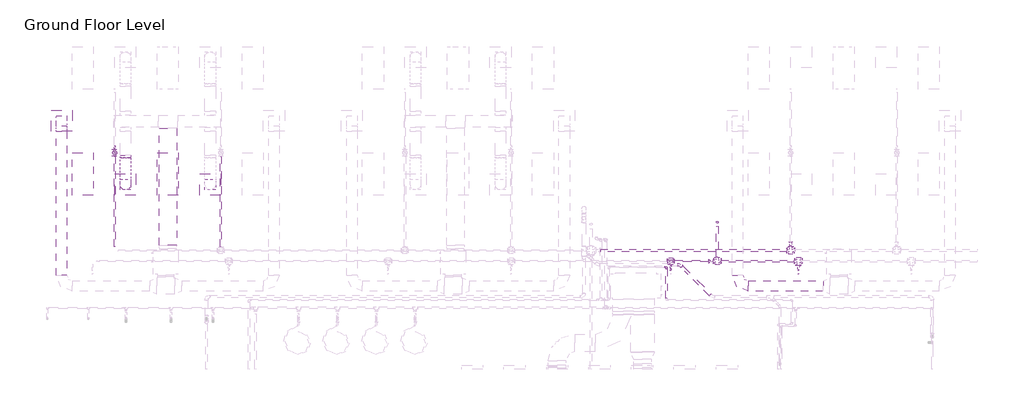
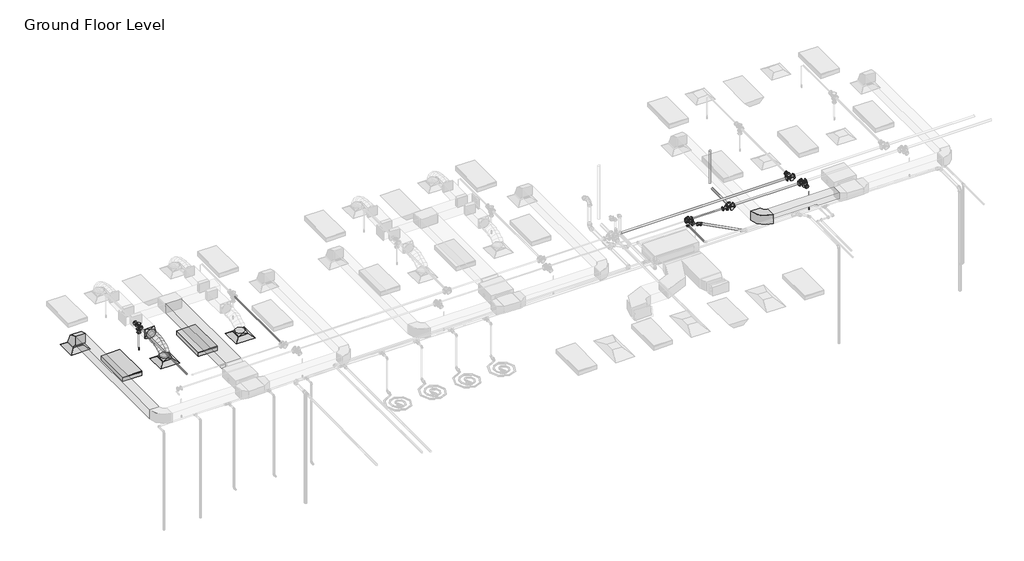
# One storey, part 52 of 68: 13 pipe fittings, 13 pipe segments, 5 duct fittings, 5 duct segments, 3 air terminals, 2 fire suppression terminals, 2 light fixtures.
"""IFC4 building model written with IfcOpenShell, lengths in millimetres."""

from ifc_helpers import new_model, si_unit, point, frame, frame_2d, origin, place, context, project, spatial, polyline, circle_curve, ellipse_curve, trimmed, segment, composite_curve, outline, extrude, transform, mapped, element, save
from ifc_brep_helpers import plane_surface, cylinder_surface, advanced_brep
from components import m_return_diffuser_600_x_600_face_300_x_300_connection_ff221211, m_rectangular_elbow_radius_1_w_618da153, m_rectangular_to_round_transition_angle_45_degree_641efff0, m_sprinkler_dry_pendent_hosted_15_mm_dry_pendent_9bda8e11, m_sprinkler_pendent_15_mm_pendent_06fcbd8e, m_troffer_light_parabolic_rectangular1_0600x1200mm_4_lamp_86473d4a, m_bend_pvc_sch_40_dwv_standard_9e3ead78, m_reducer_flanged_cs_class_150_standard_ccf252ad, m_reducer_flanged_cs_class_150_standard_d42b2106, m_reducer_flanged_cs_class_150_standard_a7631c35, m_reducer_flanged_cs_class_150_standard_55262df0, m_tee_round_base_flanged_cs_class_150_standard_dd767e04, m_tee_round_base_flanged_cs_class_150_standard_7e5987a1, standard_517a5a8d

model = new_model("IFC4")

# Units and contexts
model_context = context("Model", 3, world=origin())
ifc_project = project(units=[si_unit("LENGTHUNIT", "METRE", prefix="MILLI")], contexts=[model_context])

# Site, building, storey
site = spatial("IfcSite", under=ifc_project)
building = spatial("IfcBuilding", under=site)
storey = spatial("IfcBuildingStorey", under=building, Name="Ground Floor Level", Elevation=900.0)

# Air terminals
placement = place(None, origin())
m_return_diffuser_600_x_600_face_300_x_300_connection_shape = m_return_diffuser_600_x_600_face_300_x_300_connection_ff221211(model_context)
element("IfcAirTerminal", 1, ObjectType="M_Return Diffuser : 600 x 600 Face 300 x 300 Connection", at=placement, inside=storey, context=model_context, shape_type="MappedRepresentation", body=[
    mapped(m_return_diffuser_600_x_600_face_300_x_300_connection_shape, transform((-20937.2327605, 18735.2153534, 3650.0), x_axis=(1.0, 0.0, 0.0), y_axis=(0.0, 1.0, 0.0), z_axis=(0.0, 0.0, 1.0))),
])
element("IfcAirTerminal", 2, ObjectType="M_Supply Diffuser : 600 x 600 Face 300 x 300 Connection", at=placement, inside=storey, context=model_context, shape_type="MappedRepresentation", body=[
    mapped(m_return_diffuser_600_x_600_face_300_x_300_connection_shape, transform((-19137.2327605, 16935.2153534, 3650.0), x_axis=(1.0, 0.0, 0.0), y_axis=(0.0, 1.0, 0.0), z_axis=(0.0, 0.0, 1.0))),
])
element("IfcAirTerminal", 3, ObjectType="M_Supply Diffuser : 600 x 600 Face 300 x 300 Connection", at=placement, inside=storey, context=model_context, shape_type="MappedRepresentation", body=[
    mapped(m_return_diffuser_600_x_600_face_300_x_300_connection_shape, transform((-16737.2327605, 16935.2153534, 3650.0), x_axis=(1.0, 0.0, 0.0), y_axis=(0.0, 1.0, 0.0), z_axis=(0.0, 0.0, 1.0))),
])

# Duct fittings
m_rectangular_elbow_radius_1_w_shape = m_rectangular_elbow_radius_1_w_618da153(model_context)
element("IfcDuctFitting", 4, ObjectType="M_Rectangular Elbow - Radius : 1 W", at=placement, inside=storey, context=model_context, shape_type="MappedRepresentation", body=[
    mapped(m_rectangular_elbow_radius_1_w_shape, transform((-20937.2327605, 18735.2153534, 4075.2881511), x_axis=(0.0, 0.0, 1.0), y_axis=(0.0, -1.0, 0.0), z_axis=(1.0, 0.0, 0.0))),
])
element("IfcDuctFitting", 5, ObjectType="M_Rectangular Elbow - Radius : 1 W", at=placement, inside=storey, context=model_context, shape_type="MappedRepresentation", body=[
    mapped(m_rectangular_elbow_radius_1_w_shape, transform((-1837.2327605, 14069.8153534, 4075.2872564), x_axis=(0.0, -1.0, 0.0), y_axis=(1.0, 0.0, 0.0), z_axis=(0.0, 0.0, 1.0))),
])
m_rectangular_to_round_transition_angle_45_degree_shape = m_rectangular_to_round_transition_angle_45_degree_641efff0(model_context)
element("IfcDuctFitting", 6, ObjectType="M_Rectangular to Round Transition - Angle : 45 Degree", at=placement, inside=storey, context=model_context, shape_type="MappedRepresentation", body=[
    mapped(m_rectangular_to_round_transition_angle_45_degree_shape, transform((-16737.2327605, 16935.2153534, 3751.6), x_axis=(0.0, 0.0, 1.0), y_axis=(-1.0, 0.0, 0.0), z_axis=(0.0, -1.0, 0.0))),
])
element("IfcDuctFitting", 7, ObjectType="M_Rectangular to Round Transition - Angle : 45 Degree", at=placement, inside=storey, context=model_context, shape_type="MappedRepresentation", body=[
    mapped(m_rectangular_to_round_transition_angle_45_degree_shape, transform((-19137.2327605, 16935.2153534, 3751.6), x_axis=(0.0, 0.0, 1.0), y_axis=(-1.0, 0.0, 0.0), z_axis=(0.0, -1.0, 0.0))),
])
element("IfcDuctFitting", 8, ObjectType="M_Rectangular to Round Transition - Angle : 45 Degree", at=placement, inside=storey, context=model_context, shape_type="MappedRepresentation", body=[
    mapped(m_rectangular_to_round_transition_angle_45_degree_shape, transform((-19137.2327605, 17762.5518775, 4099.9994072), x_axis=(0.0, -1.0, 0.0), y_axis=(1.0, 0.0, 0.0), z_axis=(0.0, 0.0, 1.0))),
])

# Duct segments
element("IfcDuctSegment", 9, ObjectType="Flex - Round", at=placement, inside=storey, context=model_context, shape_type="AdvancedBrep", body=[
    advanced_brep(
    [(-18987.2327605, 16935.2153534, 3826.6), (-19137.2327605, 16785.2153534, 3826.6), (-19287.2327605, 16935.2153534, 3826.6), (-19137.2327605, 17085.2153534, 3826.6), (-18987.2327605, 16935.2153534, 3857.9377363), (-19137.2327605, 16785.2153534, 3883.580989), (-19287.2327605, 16935.2153534, 3857.9377363), (-19137.2327605, 17085.2153534, 3832.2944836), (-18987.2327605, 16952.2313024, 3906.2505836), (-19137.2327605, 16818.4933608, 3978.0661859), (-19287.2327605, 16952.2313024, 3906.2505836), (-19137.2327605, 17085.969244, 3834.4349814), (-18987.2327605, 16999.4152275, 3968.711286), (-19137.2327605, 16895.2094297, 4079.6206779), (-19287.2327605, 16999.4152275, 3968.711286), (-19137.2327605, 17103.6210253, 3857.8018941), (-18987.2327605, 17070.9712459, 4016.0699627), (-19137.2327605, 17002.0373501, 4150.3237308), (-19287.2327605, 17070.9712459, 4016.0699627), (-19137.2327605, 17139.9051416, 3881.8161947), (-18987.2327605, 17161.1034747, 4050.4144697), (-19137.2327605, 17117.5428863, 4194.3366298), (-19287.2327605, 17161.1034747, 4050.4144697), (-19137.2327605, 17204.6640631, 3906.4923095), (-18987.2327605, 17264.0160312, 4073.8326625), (-19137.2327605, 17237.4552729, 4221.6232067), (-19287.2327605, 17264.0160312, 4073.8326625), (-19137.2327605, 17290.5767896, 3926.0421182), (-18987.2327605, 17373.9130326, 4088.4123969), (-19137.2327605, 17358.7622742, 4237.7166746), (-19287.2327605, 17373.9130326, 4088.4123969), (-19137.2327605, 17389.0637909, 3939.1081192), (-18987.2327605, 17484.9985959, 4096.2415287), (-19137.2327605, 17477.4933798, 4246.0846519), (-19287.2327605, 17484.9985959, 4096.2415287), (-19137.2327605, 17492.5038121, 3946.3984054), (-18987.2327605, 17591.4768385, 4099.4079135), (-19137.2327605, 17588.7854112, 4249.3941863), (-19287.2327605, 17591.4768385, 4099.4079135), (-19137.2327605, 17594.1682658, 3949.4216408), (-18987.2327605, 17687.5518775, 4099.9994072), (-19137.2327605, 17688.475347, 3950.0022499), (-19287.2327605, 17687.5518775, 4099.9994072), (-19137.2327605, 17686.6284079, 4249.9965645)],
    [
        (0, 1, circle_curve(frame((-19137.2327605, 16935.2153534, 3826.6), z_axis=(0.0, 0.0, -1.0), x_axis=(1.0, 0.0, 0.0)), 150.0)),
        (1, 2, circle_curve(frame((-19137.2327605, 16935.2153534, 3826.6), z_axis=(0.0, 0.0, -1.0), x_axis=(1.0, 0.0, 0.0)), 150.0)),
        (2, 3, circle_curve(frame((-19137.2327605, 16935.2153534, 3826.6), z_axis=(0.0, 0.0, -1.0), x_axis=(1.0, 0.0, 0.0)), 150.0)),
        (3, 0, circle_curve(frame((-19137.2327605, 16935.2153534, 3826.6), z_axis=(0.0, 0.0, -1.0), x_axis=(1.0, 0.0, 0.0)), 150.0)),
        (0, 4),
        (4, 5, ellipse_curve(frame((-19137.2327605, 16935.2153534, 3857.9377363), z_axis=(0.0, -0.1685103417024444, -0.9856998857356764), x_axis=(0.0, 0.9856998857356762, -0.1685103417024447)), 152.1761361, 150.0)),
        (5, 1),
        (5, 6, ellipse_curve(frame((-19137.2327605, 16935.2153534, 3857.9377363), z_axis=(0.0, -0.1685103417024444, -0.9856998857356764), x_axis=(0.0, 0.9856998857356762, -0.1685103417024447)), 152.1761361, 150.0)),
        (6, 2),
        (6, 7, ellipse_curve(frame((-19137.2327605, 16935.2153534, 3857.9377363), z_axis=(0.0, -0.1685103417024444, -0.9856998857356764), x_axis=(0.0, 0.9856998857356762, -0.1685103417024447)), 152.1761361, 150.0)),
        (7, 3),
        (7, 4, ellipse_curve(frame((-19137.2327605, 16935.2153534, 3857.9377363), z_axis=(0.0, -0.1685103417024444, -0.9856998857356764), x_axis=(0.0, 0.9856998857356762, -0.1685103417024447)), 152.1761361, 150.0)),
        (4, 8),
        (8, 9, ellipse_curve(frame((-19137.2327605, 16952.2313024, 3906.2505836), z_axis=(0.0, -0.4730927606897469, -0.8810126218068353), x_axis=(0.0, 0.881012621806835, -0.4730927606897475)), 151.8002561, 150.0)),
        (9, 5),
        (9, 10, ellipse_curve(frame((-19137.2327605, 16952.2313024, 3906.2505836), z_axis=(0.0, -0.4730927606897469, -0.8810126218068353), x_axis=(0.0, 0.881012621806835, -0.4730927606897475)), 151.8002561, 150.0)),
        (10, 6),
        (10, 11, ellipse_curve(frame((-19137.2327605, 16952.2313024, 3906.2505836), z_axis=(0.0, -0.4730927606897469, -0.8810126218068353), x_axis=(0.0, 0.881012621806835, -0.4730927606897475)), 151.8002561, 150.0)),
        (11, 7),
        (11, 8, ellipse_curve(frame((-19137.2327605, 16952.2313024, 3906.2505836), z_axis=(0.0, -0.4730927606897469, -0.8810126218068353), x_axis=(0.0, 0.881012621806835, -0.4730927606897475)), 151.8002561, 150.0)),
        (8, 12),
        (12, 13, ellipse_curve(frame((-19137.2327605, 16999.4152275, 3968.711286), z_axis=(0.0, -0.7287884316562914, -0.6847389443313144), x_axis=(0.0, 0.6847389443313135, -0.7287884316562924)), 152.1832498, 150.0)),
        (13, 9),
        (13, 14, ellipse_curve(frame((-19137.2327605, 16999.4152275, 3968.711286), z_axis=(0.0, -0.7287884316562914, -0.6847389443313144), x_axis=(0.0, 0.6847389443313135, -0.7287884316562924)), 152.1832498, 150.0)),
        (14, 10),
        (14, 15, ellipse_curve(frame((-19137.2327605, 16999.4152275, 3968.711286), z_axis=(0.0, -0.7287884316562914, -0.6847389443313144), x_axis=(0.0, 0.6847389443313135, -0.7287884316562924)), 152.1832498, 150.0)),
        (15, 11),
        (15, 12, ellipse_curve(frame((-19137.2327605, 16999.4152275, 3968.711286), z_axis=(0.0, -0.7287884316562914, -0.6847389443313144), x_axis=(0.0, 0.6847389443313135, -0.7287884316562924)), 152.1832498, 150.0)),
        (12, 16),
        (16, 17, ellipse_curve(frame((-19137.2327605, 17070.9712459, 4016.0699627), z_axis=(0.0, -0.8895864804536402, -0.45676678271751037), x_axis=(0.0, 0.45676678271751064, -0.88958648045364)), 150.9170508, 150.0)),
        (17, 13),
        (17, 18, ellipse_curve(frame((-19137.2327605, 17070.9712459, 4016.0699627), z_axis=(0.0, -0.8895864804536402, -0.45676678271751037), x_axis=(0.0, 0.45676678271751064, -0.88958648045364)), 150.9170508, 150.0)),
        (18, 14),
        (18, 19, ellipse_curve(frame((-19137.2327605, 17070.9712459, 4016.0699627), z_axis=(0.0, -0.8895864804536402, -0.45676678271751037), x_axis=(0.0, 0.45676678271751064, -0.88958648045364)), 150.9170508, 150.0)),
        (19, 15),
        (19, 16, ellipse_curve(frame((-19137.2327605, 17070.9712459, 4016.0699627), z_axis=(0.0, -0.8895864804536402, -0.45676678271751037), x_axis=(0.0, 0.45676678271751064, -0.88958648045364)), 150.9170508, 150.0)),
        (16, 20),
        (20, 21, ellipse_curve(frame((-19137.2327605, 17161.1034747, 4050.4144697), z_axis=(0.0, -0.9571206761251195, -0.2896895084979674), x_axis=(0.0, 0.28968950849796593, -0.9571206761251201)), 150.3699207, 150.0)),
        (21, 17),
        (21, 22, ellipse_curve(frame((-19137.2327605, 17161.1034747, 4050.4144697), z_axis=(0.0, -0.9571206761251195, -0.2896895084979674), x_axis=(0.0, 0.28968950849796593, -0.9571206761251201)), 150.3699207, 150.0)),
        (22, 18),
        (22, 23, ellipse_curve(frame((-19137.2327605, 17161.1034747, 4050.4144697), z_axis=(0.0, -0.9571206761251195, -0.2896895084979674), x_axis=(0.0, 0.28968950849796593, -0.9571206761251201)), 150.3699207, 150.0)),
        (23, 19),
        (23, 20, ellipse_curve(frame((-19137.2327605, 17161.1034747, 4050.4144697), z_axis=(0.0, -0.9571206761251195, -0.2896895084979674), x_axis=(0.0, 0.28968950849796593, -0.9571206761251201)), 150.3699207, 150.0)),
        (20, 24),
        (24, 25, ellipse_curve(frame((-19137.2327605, 17264.0160312, 4073.8326625), z_axis=(0.0, -0.984231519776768, -0.17688503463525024), x_axis=(0.0, 0.17688503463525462, -0.984231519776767)), 150.1583126, 150.0)),
        (25, 21),
        (25, 26, ellipse_curve(frame((-19137.2327605, 17264.0160312, 4073.8326625), z_axis=(0.0, -0.984231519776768, -0.17688503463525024), x_axis=(0.0, 0.17688503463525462, -0.984231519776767)), 150.1583126, 150.0)),
        (26, 22),
        (26, 27, ellipse_curve(frame((-19137.2327605, 17264.0160312, 4073.8326625), z_axis=(0.0, -0.984231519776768, -0.17688503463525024), x_axis=(0.0, 0.17688503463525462, -0.984231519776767)), 150.1583126, 150.0)),
        (27, 23),
        (27, 24, ellipse_curve(frame((-19137.2327605, 17264.0160312, 4073.8326625), z_axis=(0.0, -0.984231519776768, -0.17688503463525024), x_axis=(0.0, 0.17688503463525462, -0.984231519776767)), 150.1583126, 150.0)),
        (24, 28),
        (28, 29, ellipse_curve(frame((-19137.2327605, 17373.9130326, 4088.4123969), z_axis=(0.0, -0.9948907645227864, -0.1009572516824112), x_axis=(0.0, 0.10095725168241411, -0.9948907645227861)), 150.0710259, 150.0)),
        (29, 25),
        (29, 30, ellipse_curve(frame((-19137.2327605, 17373.9130326, 4088.4123969), z_axis=(0.0, -0.9948907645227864, -0.1009572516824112), x_axis=(0.0, 0.10095725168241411, -0.9948907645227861)), 150.0710259, 150.0)),
        (30, 26),
        (30, 31, ellipse_curve(frame((-19137.2327605, 17373.9130326, 4088.4123969), z_axis=(0.0, -0.9948907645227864, -0.1009572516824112), x_axis=(0.0, 0.10095725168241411, -0.9948907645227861)), 150.0710259, 150.0)),
        (31, 27),
        (31, 28, ellipse_curve(frame((-19137.2327605, 17373.9130326, 4088.4123969), z_axis=(0.0, -0.9948907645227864, -0.1009572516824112), x_axis=(0.0, 0.10095725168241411, -0.9948907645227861)), 150.0710259, 150.0)),
        (28, 32),
        (32, 33, ellipse_curve(frame((-19137.2327605, 17484.9985959, 4096.2415287), z_axis=(0.0, -0.9987479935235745, -0.05002444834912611), x_axis=(0.0, 0.050024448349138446, -0.9987479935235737)), 150.030963, 150.0)),
        (33, 29),
        (33, 34, ellipse_curve(frame((-19137.2327605, 17484.9985959, 4096.2415287), z_axis=(0.0, -0.9987479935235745, -0.05002444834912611), x_axis=(0.0, 0.050024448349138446, -0.9987479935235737)), 150.030963, 150.0)),
        (34, 30),
        (34, 35, ellipse_curve(frame((-19137.2327605, 17484.9985959, 4096.2415287), z_axis=(0.0, -0.9987479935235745, -0.05002444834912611), x_axis=(0.0, 0.050024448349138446, -0.9987479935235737)), 150.030963, 150.0)),
        (35, 31),
        (35, 32, ellipse_curve(frame((-19137.2327605, 17484.9985959, 4096.2415287), z_axis=(0.0, -0.9987479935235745, -0.05002444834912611), x_axis=(0.0, 0.050024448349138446, -0.9987479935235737)), 150.030963, 150.0)),
        (32, 36),
        (36, 37, ellipse_curve(frame((-19137.2327605, 17591.4768385, 4099.4079135), z_axis=(0.0, -0.9998390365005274, -0.017941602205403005), x_axis=(0.0, 0.017941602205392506, -0.9998390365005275)), 150.0104189, 150.0)),
        (37, 33),
        (37, 38, ellipse_curve(frame((-19137.2327605, 17591.4768385, 4099.4079135), z_axis=(0.0, -0.9998390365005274, -0.017941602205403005), x_axis=(0.0, 0.017941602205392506, -0.9998390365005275)), 150.0104189, 150.0)),
        (38, 34),
        (38, 39, ellipse_curve(frame((-19137.2327605, 17591.4768385, 4099.4079135), z_axis=(0.0, -0.9998390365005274, -0.017941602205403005), x_axis=(0.0, 0.017941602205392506, -0.9998390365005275)), 150.0104189, 150.0)),
        (39, 35),
        (39, 36, ellipse_curve(frame((-19137.2327605, 17591.4768385, 4099.4079135), z_axis=(0.0, -0.9998390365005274, -0.017941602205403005), x_axis=(0.0, 0.017941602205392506, -0.9998390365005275)), 150.0104189, 150.0)),
        (40, 41, circle_curve(frame((-19137.2327605, 17687.5518775, 4099.9994072), z_axis=(0.0, 0.9999810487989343, 0.006156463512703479), x_axis=(1.0, 0.0, 0.0)), 150.0)),
        (41, 42, circle_curve(frame((-19137.2327605, 17687.5518775, 4099.9994072), z_axis=(0.0, 0.9999810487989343, 0.006156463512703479), x_axis=(1.0, 0.0, 0.0)), 150.0)),
        (42, 43, circle_curve(frame((-19137.2327605, 17687.5518775, 4099.9994072), z_axis=(0.0, 0.9999810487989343, 0.006156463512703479), x_axis=(1.0, 0.0, 0.0)), 150.0)),
        (43, 40, circle_curve(frame((-19137.2327605, 17687.5518775, 4099.9994072), z_axis=(0.0, 0.9999810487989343, 0.006156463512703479), x_axis=(1.0, 0.0, 0.0)), 150.0)),
        (36, 40),
        (43, 37),
        (42, 38),
        (41, 39),
    ],
    [
        plane_surface(frame((-19137.2327605, 16785.2153534, 3826.6), z_axis=(0.0, 0.0, -1.0), x_axis=(1.0, 0.0, 0.0))),
        cylinder_surface(frame((-19137.2327605, 16935.2153534, 3826.6), z_axis=(0.0, 0.0, -1.0), x_axis=(1.0, 0.0, 0.0)), 150.0),
        cylinder_surface(frame((-19137.2327605, 16935.2153534, 3857.9377363), z_axis=(0.0, -0.33220124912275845, -0.9432085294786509), x_axis=(1.0, 0.0, 0.0)), 150.0),
        cylinder_surface(frame((-19137.2327605, 16952.2313024, 3906.2505836), z_axis=(0.0, -0.6027631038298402, -0.7979201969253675), x_axis=(1.0, 0.0, 0.0)), 150.0),
        cylinder_surface(frame((-19137.2327605, 16999.4152275, 3968.711286), z_axis=(0.0, -0.833903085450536, -0.5519109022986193), x_axis=(1.0, 0.0, 0.0)), 150.0),
        cylinder_surface(frame((-19137.2327605, 17070.9712459, 4016.0699627), z_axis=(0.0, -0.9344586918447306, -0.3560715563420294), x_axis=(1.0, 0.0, 0.0)), 150.0),
        cylinder_surface(frame((-19137.2327605, 17161.1034747, 4050.4144697), z_axis=(0.0, -0.9750734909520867, -0.22188214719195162), x_axis=(1.0, 0.0, 0.0)), 150.0),
        cylinder_surface(frame((-19137.2327605, 17264.0160312, 4073.8326625), z_axis=(0.0, -0.9913141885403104, -0.13151494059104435), x_axis=(1.0, 0.0, 0.0)), 150.0),
        cylinder_surface(frame((-19137.2327605, 17373.9130326, 4088.4123969), z_axis=(0.0, -0.9975256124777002, -0.07030400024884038), x_axis=(1.0, 0.0, 0.0)), 150.0),
        cylinder_surface(frame((-19137.2327605, 17484.9985959, 4096.2415287), z_axis=(0.0, -0.9995581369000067, -0.029724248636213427), x_axis=(1.0, 0.0, 0.0)), 150.0),
        plane_surface(frame((-19137.2327605, 17686.6284079, 4249.9965645), z_axis=(0.0, 0.9999810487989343, 0.006156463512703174), x_axis=(1.0, 0.0, 0.0))),
        cylinder_surface(frame((-19137.2327605, 17591.4768385, 4099.4079135), z_axis=(0.0, -0.9999810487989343, -0.006156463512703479), x_axis=(1.0, 0.0, 0.0)), 150.0),
    ],
    [
        (0, [[1, 2, 3, 4]]),
        (1, [[-1, 5, 6, 7]]),
        (1, [[-2, -7, 8, 9]]),
        (1, [[-3, -9, 10, 11]]),
        (1, [[-4, -11, 12, -5]]),
        (2, [[-6, 13, 14, 15]]),
        (2, [[-8, -15, 16, 17]]),
        (2, [[-10, -17, 18, 19]]),
        (2, [[-12, -19, 20, -13]]),
        (3, [[-14, 21, 22, 23]]),
        (3, [[-16, -23, 24, 25]]),
        (3, [[-18, -25, 26, 27]]),
        (3, [[-20, -27, 28, -21]]),
        (4, [[-22, 29, 30, 31]]),
        (4, [[-24, -31, 32, 33]]),
        (4, [[-26, -33, 34, 35]]),
        (4, [[-28, -35, 36, -29]]),
        (5, [[-30, 37, 38, 39]]),
        (5, [[-32, -39, 40, 41]]),
        (5, [[-34, -41, 42, 43]]),
        (5, [[-36, -43, 44, -37]]),
        (6, [[-38, 45, 46, 47]]),
        (6, [[-40, -47, 48, 49]]),
        (6, [[-42, -49, 50, 51]]),
        (6, [[-44, -51, 52, -45]]),
        (7, [[-46, 53, 54, 55]]),
        (7, [[-48, -55, 56, 57]]),
        (7, [[-50, -57, 58, 59]]),
        (7, [[-52, -59, 60, -53]]),
        (8, [[-54, 61, 62, 63]]),
        (8, [[-56, -63, 64, 65]]),
        (8, [[-58, -65, 66, 67]]),
        (8, [[-60, -67, 68, -61]]),
        (9, [[-62, 69, 70, 71]]),
        (9, [[-64, -71, 72, 73]]),
        (9, [[-66, -73, 74, 75]]),
        (9, [[-68, -75, 76, -69]]),
        (10, [[77, 78, 79, 80]]),
        (11, [[-70, 81, -80, 82]]),
        (11, [[-72, -82, -79, 83]]),
        (11, [[-74, -83, -78, 84]]),
        (11, [[-76, -84, -77, -81]]),
    ],
),
])
element("IfcDuctSegment", 10, ObjectType="Radius Elbows / Taps", at=placement, inside=storey, context=model_context, shape_type="SweptSolid", body=[
    extrude(outline(polyline([(-17683.7327605, 15224.0945822), (-18183.7327605, 15224.0945822), (-18183.7327605, 18524.6783949), (-17683.7327605, 18524.6783949), (-17683.7327605, 15224.0945822)])), frame((0.0, 0.0, 3950.0008948), z_axis=(0.0, 0.0, 1.0), x_axis=(1.0, 0.0, 0.0)), (0.0, 0.0, 1.0), 300.0),
])
element("IfcDuctSegment", 11, ObjectType="Radius Elbows / Taps", at=placement, inside=storey, context=model_context, shape_type="SweptSolid", body=[
    extrude(outline(polyline([(-20787.2327605, 14369.8153534), (-21087.2327605, 14369.8153534), (-21087.2327605, 18435.2153534), (-20787.2327605, 18435.2153534), (-20787.2327605, 14369.8153534)])), frame((0.0, 0.0, 3925.2881511), z_axis=(0.0, 0.0, 1.0), x_axis=(1.0, 0.0, 0.0)), (0.0, 0.0, 1.0), 300.0),
])
element("IfcDuctSegment", 12, ObjectType="Radius Elbows / Taps", at=placement, inside=storey, context=model_context, shape_type="SweptSolid", body=[
    extrude(outline(polyline([(-20787.2327605, 18585.2153534), (-21087.2327605, 18585.2153534), (-21087.2327605, 18885.2153534), (-20787.2327605, 18885.2153534), (-20787.2327605, 18585.2153534)])), frame((0.0, 0.0, 3751.6), z_axis=(0.0, 0.0, 1.0), x_axis=(1.0, 0.0, 0.0)), (0.0, 0.0, 1.0), 23.6881511),
])
element("IfcDuctSegment", 13, ObjectType="Radius Elbows / Taps", at=placement, inside=storey, context=model_context, shape_type="SweptSolid", body=[
    extrude(outline(polyline([(-1537.2327605, 13919.8153534), (-1537.2327605, 14219.8153534), (576.4293293, 14219.8153534), (576.4293293, 13919.8153534), (-1537.2327605, 13919.8153534)])), frame((0.0, 0.0, 3925.2872564), z_axis=(0.0, 0.0, 1.0), x_axis=(1.0, 0.0, 0.0)), (0.0, 0.0, 1.0), 300.0),
])

# Fire suppression terminals
m_sprinkler_dry_pendent_hosted_15_mm_dry_pendent_shape = m_sprinkler_dry_pendent_hosted_15_mm_dry_pendent_9bda8e11(model_context)
element("IfcFireSuppressionTerminal", 14, ObjectType="M_Sprinkler - Dry - Pendent - Hosted : 15 mm Dry Pendent", at=placement, inside=storey, context=model_context, shape_type="MappedRepresentation", body=[
    mapped(m_sprinkler_dry_pendent_hosted_15_mm_dry_pendent_shape, transform((-19437.2327605, 17835.2153534, 3650.0), x_axis=(1.0, 0.0, 0.0), y_axis=(0.0, -1.0, 0.0), z_axis=(0.0, 0.0, -1.0))),
])
m_sprinkler_pendent_15_mm_pendent_shape = m_sprinkler_pendent_15_mm_pendent_06fcbd8e(model_context)
element("IfcFireSuppressionTerminal", 15, ObjectType="M_Sprinkler - Pendent : 15 mm Pendent", at=placement, inside=storey, context=model_context, shape_type="MappedRepresentation", body=[
    mapped(m_sprinkler_pendent_15_mm_pendent_shape, transform((-118.3252882, 14412.7243649, 3650.0), x_axis=(1.0, 0.0, 0.0), y_axis=(0.0, 1.0, 0.0), z_axis=(0.0, 0.0, 1.0))),
])

# Light fixtures
m_troffer_light_parabolic_rectangular1_0600x1200mm_4_lamp_shape = m_troffer_light_parabolic_rectangular1_0600x1200mm_4_lamp_86473d4a(model_context)
element("IfcLightFixture", 16, ObjectType="M_Troffer Light - Parabolic Rectangular1 : 0600x1200mm(4 Lamp) - 277V 2", at=placement, inside=storey, context=model_context, shape_type="MappedRepresentation", body=[
    mapped(m_troffer_light_parabolic_rectangular1_0600x1200mm_4_lamp_shape, transform((-20396.6986926, 17253.918855, 3650.0), x_axis=(0.0, 1.0, 0.0), y_axis=(-1.0, 0.0, 0.0), z_axis=(0.0, 0.0, 1.0))),
])
element("IfcLightFixture", 17, ObjectType="M_Troffer Light - Parabolic Rectangular1 : 0600x1200mm(4 Lamp) - 277V 2", at=placement, inside=storey, context=model_context, shape_type="MappedRepresentation", body=[
    mapped(m_troffer_light_parabolic_rectangular1_0600x1200mm_4_lamp_shape, transform((-17996.6986926, 17253.918855, 3650.0), x_axis=(0.0, 1.0, 0.0), y_axis=(-1.0, 0.0, 0.0), z_axis=(0.0, 0.0, 1.0))),
])

# Pipe fittings
m_bend_pvc_sch_40_dwv_standard_shape = m_bend_pvc_sch_40_dwv_standard_9e3ead78(model_context)
element("IfcPipeFitting", 18, ObjectType="M_Bend - PVC - Sch 40 - DWV : Standard", at=placement, inside=storey, context=model_context, shape_type="MappedRepresentation", body=[
    mapped(m_bend_pvc_sch_40_dwv_standard_shape, transform((-3461.339311, 14668.7334723, 4139.7239678), x_axis=(-0.707093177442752, 0.7070575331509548, 0.009427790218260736), y_axis=(-0.7070496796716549, -0.7071481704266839, 0.004713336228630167), z_axis=(0.009999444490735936, -0.003333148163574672, 0.9999444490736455))),
])
m_reducer_flanged_cs_class_150_standard_shape = m_reducer_flanged_cs_class_150_standard_ccf252ad(model_context)
element("IfcPipeFitting", 19, ObjectType="M_Reducer - Flanged - CS - Class 150 : Standard", at=placement, inside=storey, context=model_context, shape_type="MappedRepresentation", body=[
    mapped(m_reducer_flanged_cs_class_150_standard_shape, transform((-3723.9852405, 14672.759591, 4291.0943441), x_axis=(0.0, -1.0, 0.0), y_axis=(1.0, 0.0, 0.0), z_axis=(0.0, 0.0, 1.0))),
])
m_reducer_flanged_cs_class_150_standard_2_shape = m_reducer_flanged_cs_class_150_standard_d42b2106(model_context)
element("IfcPipeFitting", 20, ObjectType="M_Reducer - Flanged - CS - Class 150 : Standard", at=placement, inside=storey, context=model_context, shape_type="MappedRepresentation", body=[
    mapped(m_reducer_flanged_cs_class_150_standard_2_shape, transform((-19437.2327605, 17835.2153534, 4259.2914063), x_axis=(0.0, 0.0, -1.0), y_axis=(-1.0, 0.0, 0.0), z_axis=(0.0, 1.0, 0.0))),
])
element("IfcPipeFitting", 21, ObjectType="M_Reducer - Flanged - CS - Class 150 : Standard", at=placement, inside=storey, context=model_context, shape_type="MappedRepresentation", body=[
    mapped(m_reducer_flanged_cs_class_150_standard_2_shape, transform((-19437.2327605, 17935.9239471, 4360.0), x_axis=(0.0, 1.0, 0.0), y_axis=(-1.0, 0.0, 0.0), z_axis=(0.0, 0.0, 1.0))),
])
m_reducer_flanged_cs_class_150_standard_3_shape = m_reducer_flanged_cs_class_150_standard_a7631c35(model_context)
element("IfcPipeFitting", 22, ObjectType="M_Reducer - Flanged - CS - Class 150 : Standard", at=placement, inside=storey, context=model_context, shape_type="MappedRepresentation", body=[
    mapped(m_reducer_flanged_cs_class_150_standard_3_shape, transform((-2527.9259545, 14773.4681847, 4291.0943441), x_axis=(-1.0, 0.0, 0.0), y_axis=(0.0, -1.0, 0.0), z_axis=(0.0, 0.0, 1.0))),
])
element("IfcPipeFitting", 23, ObjectType="M_Reducer - Flanged - CS - Class 150 : Standard", at=placement, inside=storey, context=model_context, shape_type="MappedRepresentation", body=[
    mapped(m_reducer_flanged_cs_class_150_standard_3_shape, transform((-337.2327605, 15187.2009828, 4360.0), x_axis=(0.0, 1.0, 0.0), y_axis=(-1.0, 0.0, 0.0), z_axis=(0.0, 0.0, 1.0))),
])
m_reducer_flanged_cs_class_150_standard_4_shape = m_reducer_flanged_cs_class_150_standard_55262df0(model_context)
element("IfcPipeFitting", 24, ObjectType="M_Reducer - Flanged - CS - Class 150 : Standard", at=placement, inside=storey, context=model_context, shape_type="MappedRepresentation", body=[
    mapped(m_reducer_flanged_cs_class_150_standard_4_shape, transform((-118.3252882, 14659.4681847, 4291.0943441), x_axis=(0.0, -1.0, 0.0), y_axis=(1.0, 0.0, 0.0), z_axis=(0.0, 0.0, 1.0))),
])
m_tee_round_base_flanged_cs_class_150_standard_shape = m_tee_round_base_flanged_cs_class_150_standard_dd767e04(model_context)
element("IfcPipeFitting", 25, ObjectType="M_Tee Round Base - Flanged - CS - Class 150 : Standard", at=placement, inside=storey, context=model_context, shape_type="MappedRepresentation", body=[
    mapped(m_tee_round_base_flanged_cs_class_150_standard_shape, transform((-118.3252882, 14773.4681847, 4291.0943441), x_axis=(-1.0, 0.0, 0.0), y_axis=(0.0, 1.0, 0.0), z_axis=(0.0, 0.0, -1.0))),
])
element("IfcPipeFitting", 26, ObjectType="M_Tee Round Base - Flanged - CS - Class 150 : Standard", at=placement, inside=storey, context=model_context, shape_type="MappedRepresentation", body=[
    mapped(m_tee_round_base_flanged_cs_class_150_standard_shape, transform((-2413.9259545, 14773.4681847, 4291.0943441), x_axis=(-1.0, 0.0, 0.0), y_axis=(0.0, -1.0, 0.0), z_axis=(0.0, 0.0, 1.0))),
])
element("IfcPipeFitting", 27, ObjectType="M_Tee Round Base - Flanged - CS - Class 150 : Standard", at=placement, inside=storey, context=model_context, shape_type="MappedRepresentation", body=[
    mapped(m_tee_round_base_flanged_cs_class_150_standard_shape, transform((-337.2327605, 15073.2009828, 4360.0), x_axis=(-1.0, 0.0, 0.0), y_axis=(0.0, -1.0, 0.0), z_axis=(0.0, 0.0, 1.0))),
])
m_tee_round_base_flanged_cs_class_150_standard_2_shape = m_tee_round_base_flanged_cs_class_150_standard_7e5987a1(model_context)
element("IfcPipeFitting", 28, ObjectType="M_Tee Round Base - Flanged - CS - Class 150 : Standard", at=placement, inside=storey, context=model_context, shape_type="MappedRepresentation", body=[
    mapped(m_tee_round_base_flanged_cs_class_150_standard_2_shape, transform((-3723.9852405, 14773.4681847, 4291.0943441), x_axis=(-1.0, 0.0, 0.0), y_axis=(0.0, 1.0, 0.0), z_axis=(0.0, 0.0, -1.0))),
])
element("IfcPipeFitting", 29, ObjectType="M_Tee Round Base - Flanged - CS - Class 150 : Standard", at=placement, inside=storey, context=model_context, shape_type="MappedRepresentation", body=[
    mapped(m_tee_round_base_flanged_cs_class_150_standard_2_shape, transform((-19437.2327605, 17835.2153534, 4360.0), x_axis=(0.0, 1.0, 0.0), y_axis=(0.0, 0.0, 1.0), z_axis=(1.0, 0.0, 0.0))),
])
standard_shape = standard_517a5a8d(model_context)
element("IfcPipeFitting", 30, ObjectType="M_Elbow - CPVC - Sch 40 : Standard", at=placement, inside=storey, context=model_context, shape_type="MappedRepresentation", body=[
    mapped(standard_shape, transform((-3846.4489567, 14603.43487, 4250.0), x_axis=(0.0, 1.0, 0.0), y_axis=(-1.0, 0.0, 0.0), z_axis=(0.0, 0.0, 1.0))),
])

# Pipe segments
element("IfcPipeSegment", 31, ObjectType="CPVC", at=placement, inside=storey, context=model_context, shape_type="SweptSolid", body=[
    extrude(outline(composite_curve([segment(trimmed(circle_curve(frame_2d((4250.0, -3846.4489567)), 16.7005), [point((4250.0, -3863.1494567))], [point((4233.2995, -3846.4489567))], False, "CARTESIAN"), True, "CONTINUOUS"), segment(trimmed(circle_curve(frame_2d((4250.0, -3846.4489567)), 16.7005), [point((4233.2995, -3846.4489567))], [point((4250.0, -3829.7484567))], False, "CARTESIAN"), True, "CONTINUOUS"), segment(trimmed(circle_curve(frame_2d((4250.0, -3846.4489567)), 16.7005), [point((4250.0, -3829.7484567))], [point((4266.7005, -3846.4489567))], False, "CARTESIAN"), True, "CONTINUOUS"), segment(trimmed(circle_curve(frame_2d((4250.0, -3846.4489567)), 16.7005), [point((4266.7005, -3846.4489567))], [point((4250.0, -3863.1494567))], False, "CARTESIAN"), True, "CONTINUOUS")], self_intersect=False)), frame((0.0, 13718.4779034, 0.0), z_axis=(0.0, 1.0, 0.0), x_axis=(0.0, 0.0, 1.0)), (0.0, 0.0, 1.0), 841.6944166),
])
element("IfcPipeSegment", 32, ObjectType="PVC - DWV", at=placement, inside=storey, context=model_context, shape_type="SweptSolid", body=[
    extrude(outline(composite_curve([segment(trimmed(circle_curve(frame_2d((0.0, -36.5125)), 36.5125), [point((-36.5108772, -36.8567342))], [point((-0.3442341, -0.0016227))], False, "CARTESIAN"), True, "CONTINUOUS"), segment(trimmed(circle_curve(frame_2d((0.0, -36.5125)), 36.5125), [point((-0.3442341, -0.0016227))], [point((36.5108773, -36.1682657))], False, "CARTESIAN"), True, "CONTINUOUS"), segment(trimmed(circle_curve(frame_2d((0.0, -36.5125)), 36.5125), [point((36.5108773, -36.1682657))], [point((0.3442343, -73.0233772))], False, "CARTESIAN"), True, "CONTINUOUS"), segment(trimmed(circle_curve(frame_2d((0.0, -36.5125)), 36.5125), [point((0.3442343, -73.0233772))], [point((-36.5108772, -36.8567342))], False, "CARTESIAN"), True, "CONTINUOUS")], self_intersect=False)), frame((-2613.257958, 13821.1816791, 4091.9071043), z_axis=(-0.7070931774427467, 0.70705753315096, 0.009427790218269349), x_axis=(0.7071203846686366, 0.7070303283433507, 0.00942742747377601)), (0.0, 0.0, 1.0), 1125.8990386),
])
element("IfcPipeSegment", 33, ObjectType="Steel flanged", at=placement, inside=storey, context=model_context, shape_type="SweptSolid", body=[
    extrude(outline(composite_curve([segment(trimmed(circle_curve(frame_2d((4291.0943441, -3723.9852405)), 10.668), [point((4291.0943441, -3713.3172405))], [point((4301.7623441, -3723.9852405))], False, "CARTESIAN"), True, "CONTINUOUS"), segment(trimmed(circle_curve(frame_2d((4291.0943441, -3723.9852405)), 10.668), [point((4301.7623441, -3723.9852405))], [point((4291.0943441, -3734.6532405))], False, "CARTESIAN"), True, "CONTINUOUS"), segment(trimmed(circle_curve(frame_2d((4291.0943441, -3723.9852405)), 10.668), [point((4291.0943441, -3734.6532405))], [point((4280.4263441, -3723.9852405))], False, "CARTESIAN"), True, "CONTINUOUS"), segment(trimmed(circle_curve(frame_2d((4291.0943441, -3723.9852405)), 10.668), [point((4280.4263441, -3723.9852405))], [point((4291.0943441, -3713.3172405))], False, "CARTESIAN"), True, "CONTINUOUS")], self_intersect=False)), frame((0.0, 14506.1787201, 0.0), z_axis=(0.0, 1.0, 0.0), x_axis=(0.0, 0.0, 1.0)), (0.0, 0.0, 1.0), 52.5808709),
])
element("IfcPipeSegment", 34, ObjectType="Steel flanged", at=placement, inside=storey, context=model_context, shape_type="SweptSolid", body=[
    extrude(outline(composite_curve([segment(trimmed(circle_curve(frame_2d((-118.3252882, 14412.7243649)), 10.668), [point((-128.9932882, 14412.7243649))], [point((-118.3252882, 14423.3923649))], False, "CARTESIAN"), True, "CONTINUOUS"), segment(trimmed(circle_curve(frame_2d((-118.3252882, 14412.7243649)), 10.668), [point((-118.3252882, 14423.3923649))], [point((-107.6572882, 14412.7243649))], False, "CARTESIAN"), True, "CONTINUOUS"), segment(trimmed(circle_curve(frame_2d((-118.3252882, 14412.7243649)), 10.668), [point((-107.6572882, 14412.7243649))], [point((-118.3252882, 14402.0563649))], False, "CARTESIAN"), True, "CONTINUOUS"), segment(trimmed(circle_curve(frame_2d((-118.3252882, 14412.7243649)), 10.668), [point((-118.3252882, 14402.0563649))], [point((-128.9932882, 14412.7243649))], False, "CARTESIAN"), True, "CONTINUOUS")], self_intersect=False)), frame((0.0, 0.0, 3650.0), z_axis=(0.0, 0.0, 1.0), x_axis=(1.0, 0.0, 0.0)), (0.0, 0.0, 1.0), 548.2668816),
])
element("IfcPipeSegment", 35, ObjectType="Steel flanged", at=placement, inside=storey, context=model_context, shape_type="SweptSolid", body=[
    extrude(outline(composite_curve([segment(trimmed(circle_curve(frame_2d((4291.0943441, -118.3252882)), 10.668), [point((4291.0943441, -107.6572882))], [point((4301.7623441, -118.3252882))], False, "CARTESIAN"), True, "CONTINUOUS"), segment(trimmed(circle_curve(frame_2d((4291.0943441, -118.3252882)), 10.668), [point((4301.7623441, -118.3252882))], [point((4291.0943441, -128.9932882))], False, "CARTESIAN"), True, "CONTINUOUS"), segment(trimmed(circle_curve(frame_2d((4291.0943441, -118.3252882)), 10.668), [point((4291.0943441, -128.9932882))], [point((4280.4263441, -118.3252882))], False, "CARTESIAN"), True, "CONTINUOUS"), segment(trimmed(circle_curve(frame_2d((4291.0943441, -118.3252882)), 10.668), [point((4280.4263441, -118.3252882))], [point((4291.0943441, -107.6572882))], False, "CARTESIAN"), True, "CONTINUOUS")], self_intersect=False)), frame((0.0, 14505.7329586, 0.0), z_axis=(0.0, 1.0, 0.0), x_axis=(0.0, 0.0, 1.0)), (0.0, 0.0, 1.0), 26.7352261),
])
element("IfcPipeSegment", 36, ObjectType="Steel flanged", at=placement, inside=storey, context=model_context, shape_type="SweptSolid", body=[
    extrude(outline(composite_curve([segment(trimmed(circle_curve(frame_2d((14773.4681847, 4291.0943441)), 30.1625), [point((14743.3056847, 4291.0943441))], [point((14773.4681847, 4321.2568441))], False, "CARTESIAN"), True, "CONTINUOUS"), segment(trimmed(circle_curve(frame_2d((14773.4681847, 4291.0943441)), 30.1625), [point((14773.4681847, 4321.2568441))], [point((14803.6306847, 4291.0943441))], False, "CARTESIAN"), True, "CONTINUOUS"), segment(trimmed(circle_curve(frame_2d((14773.4681847, 4291.0943441)), 30.1625), [point((14803.6306847, 4291.0943441))], [point((14773.4681847, 4260.9318441))], False, "CARTESIAN"), True, "CONTINUOUS"), segment(trimmed(circle_curve(frame_2d((14773.4681847, 4291.0943441)), 30.1625), [point((14773.4681847, 4260.9318441))], [point((14743.3056847, 4291.0943441))], False, "CARTESIAN"), True, "CONTINUOUS")], self_intersect=False)), frame((-2299.9259545, 0.0, 0.0), z_axis=(1.0, 0.0, 0.0), x_axis=(0.0, 1.0, 0.0)), (0.0, 0.0, 1.0), 2067.6006663),
])
element("IfcPipeSegment", 37, ObjectType="Steel flanged", at=placement, inside=storey, context=model_context, shape_type="SweptSolid", body=[
    extrude(outline(composite_curve([segment(trimmed(circle_curve(frame_2d((4291.0943441, -2413.9259545)), 30.1625), [point((4291.0943441, -2383.7634545))], [point((4321.2568441, -2413.9259545))], False, "CARTESIAN"), True, "CONTINUOUS"), segment(trimmed(circle_curve(frame_2d((4291.0943441, -2413.9259545)), 30.1625), [point((4321.2568441, -2413.9259545))], [point((4291.0943441, -2444.0884545))], False, "CARTESIAN"), True, "CONTINUOUS"), segment(trimmed(circle_curve(frame_2d((4291.0943441, -2413.9259545)), 30.1625), [point((4291.0943441, -2444.0884545))], [point((4260.9318441, -2413.9259545))], False, "CARTESIAN"), True, "CONTINUOUS"), segment(trimmed(circle_curve(frame_2d((4291.0943441, -2413.9259545)), 30.1625), [point((4260.9318441, -2413.9259545))], [point((4291.0943441, -2383.7634545))], False, "CARTESIAN"), True, "CONTINUOUS")], self_intersect=False)), frame((0.0, 14887.4681847, 0.0), z_axis=(0.0, 1.0, 0.0), x_axis=(0.0, 0.0, 1.0)), (0.0, 0.0, 1.0), 871.5409053),
])
element("IfcPipeSegment", 38, ObjectType="Steel flanged", at=placement, inside=storey, context=model_context, shape_type="SweptSolid", body=[
    extrude(outline(composite_curve([segment(trimmed(circle_curve(frame_2d((14773.4681847, 4291.0943441)), 16.7005), [point((14756.7676847, 4291.0943441))], [point((14773.4681847, 4307.7948441))], False, "CARTESIAN"), True, "CONTINUOUS"), segment(trimmed(circle_curve(frame_2d((14773.4681847, 4291.0943441)), 16.7005), [point((14773.4681847, 4307.7948441))], [point((14790.1686847, 4291.0943441))], False, "CARTESIAN"), True, "CONTINUOUS"), segment(trimmed(circle_curve(frame_2d((14773.4681847, 4291.0943441)), 16.7005), [point((14790.1686847, 4291.0943441))], [point((14773.4681847, 4274.3938441))], False, "CARTESIAN"), True, "CONTINUOUS"), segment(trimmed(circle_curve(frame_2d((14773.4681847, 4291.0943441)), 16.7005), [point((14773.4681847, 4274.3938441))], [point((14756.7676847, 4291.0943441))], False, "CARTESIAN"), True, "CONTINUOUS")], self_intersect=False)), frame((-3623.2766467, 0.0, 0.0), z_axis=(1.0, 0.0, 0.0), x_axis=(0.0, 1.0, 0.0)), (0.0, 0.0, 1.0), 968.3506922),
])
element("IfcPipeSegment", 39, ObjectType="Steel flanged", at=placement, inside=storey, context=model_context, shape_type="SweptSolid", body=[
    extrude(outline(composite_curve([segment(trimmed(circle_curve(frame_2d((-2413.9259545, 15873.00909)), 30.1625), [point((-2444.0884545, 15873.00909))], [point((-2413.9259545, 15903.17159))], False, "CARTESIAN"), True, "CONTINUOUS"), segment(trimmed(circle_curve(frame_2d((-2413.9259545, 15873.00909)), 30.1625), [point((-2413.9259545, 15903.17159))], [point((-2383.7634545, 15873.00909))], False, "CARTESIAN"), True, "CONTINUOUS"), segment(trimmed(circle_curve(frame_2d((-2413.9259545, 15873.00909)), 30.1625), [point((-2383.7634545, 15873.00909))], [point((-2413.9259545, 15842.84659))], False, "CARTESIAN"), True, "CONTINUOUS"), segment(trimmed(circle_curve(frame_2d((-2413.9259545, 15873.00909)), 30.1625), [point((-2413.9259545, 15842.84659))], [point((-2444.0884545, 15873.00909))], False, "CARTESIAN"), True, "CONTINUOUS")], self_intersect=False)), frame((0.0, 0.0, 4405.2754753), z_axis=(0.0, 0.0, 1.0), x_axis=(1.0, 0.0, 0.0)), (0.0, 0.0, 1.0), 1080.7245247),
])
element("IfcPipeSegment", 40, ObjectType="Steel flanged", at=placement, inside=storey, context=model_context, shape_type="SweptSolid", body=[
    extrude(outline(composite_curve([segment(trimmed(circle_curve(frame_2d((-19437.2327605, 17835.2153534)), 10.668), [point((-19447.9007605, 17835.2153534))], [point((-19437.2327605, 17845.8833534))], False, "CARTESIAN"), True, "CONTINUOUS"), segment(trimmed(circle_curve(frame_2d((-19437.2327605, 17835.2153534)), 10.668), [point((-19437.2327605, 17845.8833534))], [point((-19426.5647605, 17835.2153534))], False, "CARTESIAN"), True, "CONTINUOUS"), segment(trimmed(circle_curve(frame_2d((-19437.2327605, 17835.2153534)), 10.668), [point((-19426.5647605, 17835.2153534))], [point((-19437.2327605, 17824.5473534))], False, "CARTESIAN"), True, "CONTINUOUS"), segment(trimmed(circle_curve(frame_2d((-19437.2327605, 17835.2153534)), 10.668), [point((-19437.2327605, 17824.5473534))], [point((-19447.9007605, 17835.2153534))], False, "CARTESIAN"), True, "CONTINUOUS")], self_intersect=False)), frame((0.0, 0.0, 3650.0), z_axis=(0.0, 0.0, 1.0), x_axis=(1.0, 0.0, 0.0)), (0.0, 0.0, 1.0), 495.2914063),
])
element("IfcPipeSegment", 41, ObjectType="Steel flanged", at=placement, inside=storey, context=model_context, shape_type="SweptSolid", body=[
    extrude(outline(composite_curve([segment(trimmed(circle_curve(frame_2d((4360.0, -19437.2327605)), 16.7005), [point((4360.0, -19453.9332605))], [point((4343.2995, -19437.2327605))], False, "CARTESIAN"), True, "CONTINUOUS"), segment(trimmed(circle_curve(frame_2d((4360.0, -19437.2327605)), 16.7005), [point((4343.2995, -19437.2327605))], [point((4360.0, -19420.5322605))], False, "CARTESIAN"), True, "CONTINUOUS"), segment(trimmed(circle_curve(frame_2d((4360.0, -19437.2327605)), 16.7005), [point((4360.0, -19420.5322605))], [point((4376.7005, -19437.2327605))], False, "CARTESIAN"), True, "CONTINUOUS"), segment(trimmed(circle_curve(frame_2d((4360.0, -19437.2327605)), 16.7005), [point((4376.7005, -19437.2327605))], [point((4360.0, -19453.9332605))], False, "CARTESIAN"), True, "CONTINUOUS")], self_intersect=False)), frame((0.0, 15173.9095765, 0.0), z_axis=(0.0, 1.0, 0.0), x_axis=(0.0, 0.0, 1.0)), (0.0, 0.0, 1.0), 2560.5971831),
])
element("IfcPipeSegment", 42, ObjectType="Steel flanged", at=placement, inside=storey, context=model_context, shape_type="SweptSolid", body=[
    extrude(outline(composite_curve([segment(trimmed(circle_curve(frame_2d((4360.0, -16437.2327605)), 16.7005), [point((4360.0, -16453.9332605))], [point((4343.2995, -16437.2327605))], False, "CARTESIAN"), True, "CONTINUOUS"), segment(trimmed(circle_curve(frame_2d((4360.0, -16437.2327605)), 16.7005), [point((4343.2995, -16437.2327605))], [point((4360.0, -16420.5322605))], False, "CARTESIAN"), True, "CONTINUOUS"), segment(trimmed(circle_curve(frame_2d((4360.0, -16437.2327605)), 16.7005), [point((4360.0, -16420.5322605))], [point((4376.7005, -16437.2327605))], False, "CARTESIAN"), True, "CONTINUOUS"), segment(trimmed(circle_curve(frame_2d((4360.0, -16437.2327605)), 16.7005), [point((4376.7005, -16437.2327605))], [point((4360.0, -16453.9332605))], False, "CARTESIAN"), True, "CONTINUOUS")], self_intersect=False)), frame((0.0, 15173.9095765, 0.0), z_axis=(0.0, 1.0, 0.0), x_axis=(0.0, 0.0, 1.0)), (0.0, 0.0, 1.0), 2560.5971831),
])
element("IfcPipeSegment", 43, ObjectType="Steel flanged", at=placement, inside=storey, context=model_context, shape_type="SweptSolid", body=[
    extrude(outline(composite_curve([segment(trimmed(circle_curve(frame_2d((15073.2009828, 4360.0)), 30.1625), [point((15043.0384828, 4360.0))], [point((15073.2009828, 4390.1625))], False, "CARTESIAN"), True, "CONTINUOUS"), segment(trimmed(circle_curve(frame_2d((15073.2009828, 4360.0)), 30.1625), [point((15073.2009828, 4390.1625))], [point((15103.3634828, 4360.0))], False, "CARTESIAN"), True, "CONTINUOUS"), segment(trimmed(circle_curve(frame_2d((15073.2009828, 4360.0)), 30.1625), [point((15103.3634828, 4360.0))], [point((15073.2009828, 4329.8375))], False, "CARTESIAN"), True, "CONTINUOUS"), segment(trimmed(circle_curve(frame_2d((15073.2009828, 4360.0)), 30.1625), [point((15073.2009828, 4329.8375))], [point((15043.0384828, 4360.0))], False, "CARTESIAN"), True, "CONTINUOUS")], self_intersect=False)), frame((-5711.130502, 0.0, 0.0), z_axis=(1.0, 0.0, 0.0), x_axis=(0.0, 1.0, 0.0)), (0.0, 0.0, 1.0), 5259.8977415),
])

save(model, "model.ifc")
